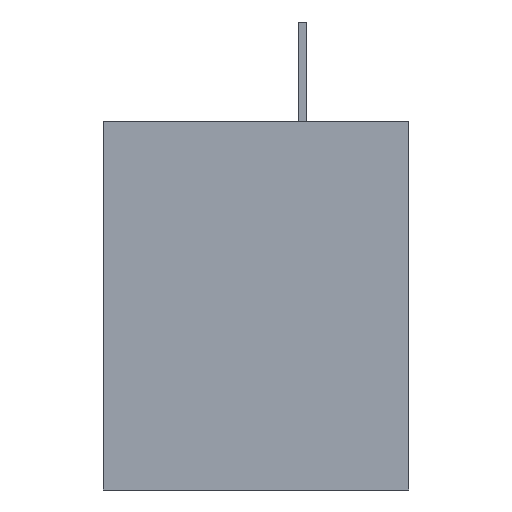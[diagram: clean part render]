
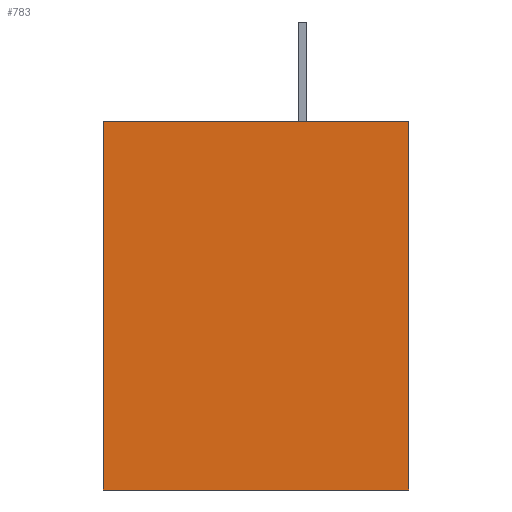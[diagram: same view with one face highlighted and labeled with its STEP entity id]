
A CAD part, left-side view. The second image highlights one B-rep face of the part: STEP entity #783.
In plain terms, the highlighted planar face has unit normal (-1, 0, 0).
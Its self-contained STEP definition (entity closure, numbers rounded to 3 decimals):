
#56=ORIENTED_EDGE('',*,*,#272,.T.);
#57=ORIENTED_EDGE('',*,*,#271,.F.);
#58=ORIENTED_EDGE('',*,*,#273,.F.);
#59=ORIENTED_EDGE('',*,*,#274,.T.);
#271=EDGE_CURVE('',#379,#376,#451,.T.);
#272=EDGE_CURVE('',#380,#376,#452,.T.);
#273=EDGE_CURVE('',#381,#379,#453,.T.);
#274=EDGE_CURVE('',#381,#380,#454,.T.);
#376=VERTEX_POINT('',#1152);
#379=VERTEX_POINT('',#1157);
#380=VERTEX_POINT('',#1161);
#381=VERTEX_POINT('',#1163);
#451=LINE('',#1158,#559);
#452=LINE('',#1160,#560);
#453=LINE('',#1162,#561);
#454=LINE('',#1164,#562);
#559=VECTOR('',#925,1000.);
#560=VECTOR('',#928,1000.);
#561=VECTOR('',#929,1000.);
#562=VECTOR('',#930,1000.);
#641=EDGE_LOOP('',(#56,#57,#58,#59));
#693=FACE_BOUND('',#641,.T.);
#738=PLANE('',#841);
#783=ADVANCED_FACE('',(#693),#738,.F.);
#841=AXIS2_PLACEMENT_3D('',#1159,#926,#927);
#925=DIRECTION('',(0.,-1.,0.));
#926=DIRECTION('',(1.,0.,0.));
#927=DIRECTION('',(0.,0.,-1.));
#928=DIRECTION('',(0.,0.,1.));
#929=DIRECTION('',(0.,0.,1.));
#930=DIRECTION('',(0.,-1.,0.));
#1152=CARTESIAN_POINT('',(-10.925,0.,6.91));
#1157=CARTESIAN_POINT('',(-10.925,9.2,6.91));
#1158=CARTESIAN_POINT('',(-10.925,9.2,6.91));
#1159=CARTESIAN_POINT('',(-10.925,9.2,-4.19));
#1160=CARTESIAN_POINT('',(-10.925,0.,-4.19));
#1161=CARTESIAN_POINT('',(-10.925,0.,-4.19));
#1162=CARTESIAN_POINT('',(-10.925,9.2,-4.19));
#1163=CARTESIAN_POINT('',(-10.925,9.2,-4.19));
#1164=CARTESIAN_POINT('',(-10.925,9.2,-4.19));
